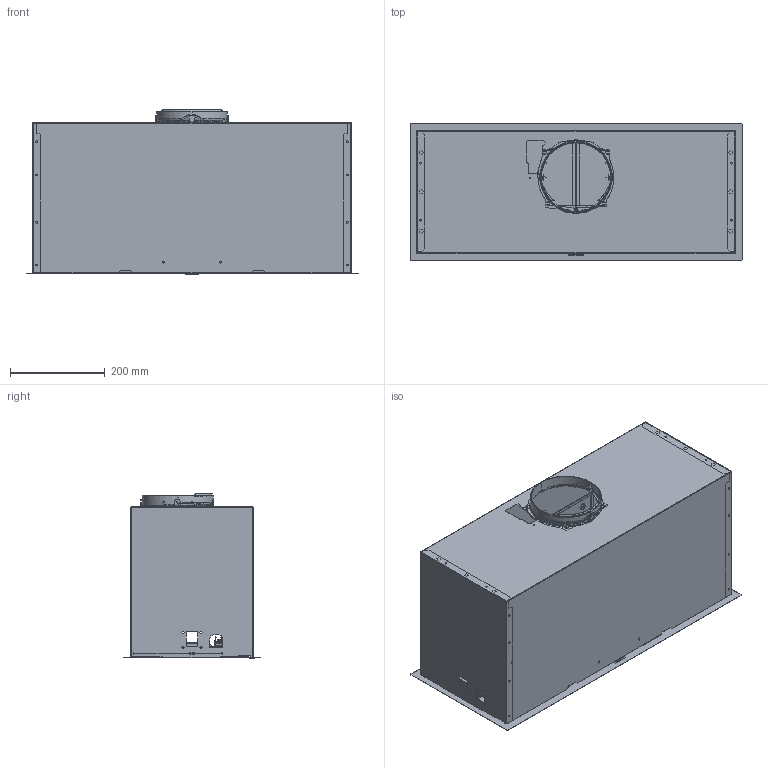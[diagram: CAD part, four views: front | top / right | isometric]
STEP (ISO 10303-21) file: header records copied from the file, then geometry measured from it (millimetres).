
FILE_DESCRIPTION(/* description */ (''),/* implementation_level */ '2;1');
FILE_NAME(/* name */ '3D001_Hoods_Box-Flush-Premium_FBFP-A70',/* time_stamp */ '2024-02-09T12:09:24+01:00',/* author */ (''),/* organization */ (''),/* preprocessor_version */ 'ST-DEVELOPER v19.2',/* originating_system */ 'Rhino 8.3',/* authorisation */ '');
FILE_SCHEMA (('CONFIG_CONTROL_DESIGN'));
Products named in the file (20): Document; 305056_711_ASM_39_ASM14; G02_203_583; FIN_048_141; CME_732_35; K36_700_ASM_134_ASM; K36_005_117; K36_015_24; K36_017_33; K36_703_ASM_52_ASM; K36_002_119; K36_003_50; K36_007_32; 305056_062_142; 305056_031_394; 305056_032_589; 305056_100_248; 305056_137_30_711; 305056_136_30_512; 305056_134_30_310
Bounding box: 700 x 290 x 347.79 mm (x, y, z)
Volume: 907472.8 mm3; surface area: 2327206.5 mm2
Topology: 24 solids, 34 shells, 8574 faces, 21535 edges, 12960 vertices
Faces by surface type: plane 3610, cylinder 3067, bspline 1897
Entity records: 355458 total; most frequent: CARTESIAN_POINT 208112, ORIENTED_EDGE 36957, EDGE_CURVE 18632, DIRECTION 15406, B_SPLINE_CURVE_WITH_KNOTS 13828, VERTEX_POINT 11320, AXIS2_PLACEMENT_3D 10574, EDGE_LOOP 7981
